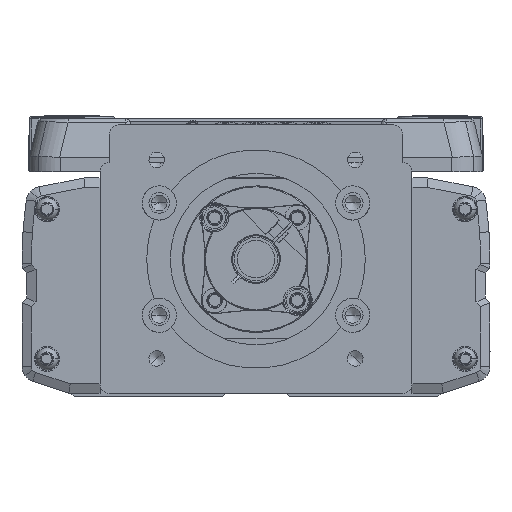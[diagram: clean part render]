
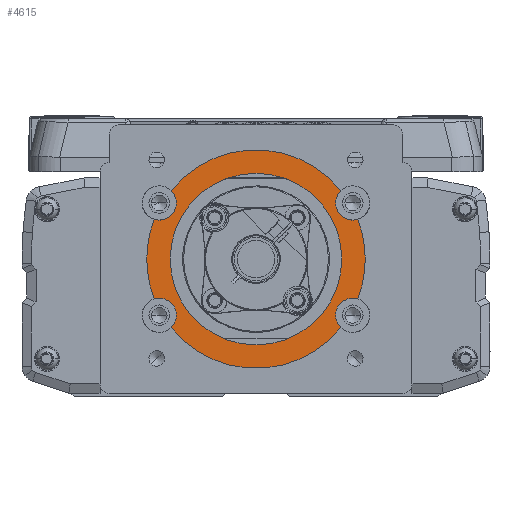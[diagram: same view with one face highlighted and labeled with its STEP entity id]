
A CAD part, left-side view. The second image highlights one B-rep face of the part: STEP entity #4615.
In plain terms, the highlighted planar face has unit normal (-1, 0, 0).
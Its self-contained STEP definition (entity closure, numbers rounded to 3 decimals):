
#4615=ADVANCED_FACE('',(#11685,#11686),#11687,.F.);
#11685=FACE_OUTER_BOUND('',#22243,.T.);
#11686=FACE_BOUND('',#22244,.T.);
#11687=PLANE('',#22245);
#22243=EDGE_LOOP('',(#36048,#36049,#36050,#36051,#36052,#36053,#36054,#36055,#36056,#36057,#36058,#36059,#36060,#36061));
#22244=EDGE_LOOP('',(#36062,#36063));
#22245=AXIS2_PLACEMENT_3D('',#36064,#36065,#36066);
#36048=ORIENTED_EDGE('',*,*,#63619,.F.);
#36049=ORIENTED_EDGE('',*,*,#63620,.T.);
#36050=ORIENTED_EDGE('',*,*,#63621,.T.);
#36051=ORIENTED_EDGE('',*,*,#63622,.F.);
#36052=ORIENTED_EDGE('',*,*,#63623,.F.);
#36053=ORIENTED_EDGE('',*,*,#63624,.T.);
#36054=ORIENTED_EDGE('',*,*,#63625,.F.);
#36055=ORIENTED_EDGE('',*,*,#63626,.F.);
#36056=ORIENTED_EDGE('',*,*,#63627,.T.);
#36057=ORIENTED_EDGE('',*,*,#63628,.T.);
#36058=ORIENTED_EDGE('',*,*,#63629,.F.);
#36059=ORIENTED_EDGE('',*,*,#63630,.F.);
#36060=ORIENTED_EDGE('',*,*,#62785,.T.);
#36061=ORIENTED_EDGE('',*,*,#63631,.F.);
#36062=ORIENTED_EDGE('',*,*,#63632,.F.);
#36063=ORIENTED_EDGE('',*,*,#63633,.F.);
#36064=CARTESIAN_POINT('',(-69.,0.,0.));
#36065=DIRECTION('',(1.0,0.,0.));
#36066=DIRECTION('',(0.,1.0,0.));
#62785=EDGE_CURVE('',#75015,#75012,#75016,.T.);
#63619=EDGE_CURVE('',#76483,#76484,#76485,.T.);
#63620=EDGE_CURVE('',#76483,#76486,#76487,.T.);
#63621=EDGE_CURVE('',#76486,#76488,#76489,.T.);
#63622=EDGE_CURVE('',#76490,#76488,#76491,.T.);
#63623=EDGE_CURVE('',#76492,#76490,#76493,.T.);
#63624=EDGE_CURVE('',#76492,#76494,#76495,.T.);
#63625=EDGE_CURVE('',#76496,#76494,#76497,.T.);
#63626=EDGE_CURVE('',#76498,#76496,#76499,.T.);
#63627=EDGE_CURVE('',#76498,#76500,#76501,.T.);
#63628=EDGE_CURVE('',#76500,#76502,#76503,.T.);
#63629=EDGE_CURVE('',#76504,#76502,#76505,.T.);
#63630=EDGE_CURVE('',#75015,#76504,#76506,.T.);
#63631=EDGE_CURVE('',#76484,#75012,#76507,.T.);
#63632=EDGE_CURVE('',#76508,#76509,#76510,.T.);
#63633=EDGE_CURVE('',#76509,#76508,#76511,.T.);
#75012=VERTEX_POINT('',#92374);
#75015=VERTEX_POINT('',#92378);
#75016=CIRCLE('',#92379,35.0);
#76483=VERTEX_POINT('',#95445);
#76484=VERTEX_POINT('',#95446);
#76485=CIRCLE('',#95447,5.5);
#76486=VERTEX_POINT('',#95448);
#76487=CIRCLE('',#95449,35.0);
#76488=VERTEX_POINT('',#95450);
#76489=CIRCLE('',#95451,35.0);
#76490=VERTEX_POINT('',#95452);
#76491=CIRCLE('',#95453,5.5);
#76492=VERTEX_POINT('',#95454);
#76493=CIRCLE('',#95455,5.5);
#76494=VERTEX_POINT('',#95456);
#76495=CIRCLE('',#95457,35.0);
#76496=VERTEX_POINT('',#95458);
#76497=CIRCLE('',#95459,5.5);
#76498=VERTEX_POINT('',#95460);
#76499=CIRCLE('',#95461,5.5);
#76500=VERTEX_POINT('',#95462);
#76501=CIRCLE('',#95463,35.0);
#76502=VERTEX_POINT('',#95464);
#76503=CIRCLE('',#95465,35.0);
#76504=VERTEX_POINT('',#95466);
#76505=CIRCLE('',#95467,5.5);
#76506=CIRCLE('',#95468,5.5);
#76507=CIRCLE('',#95469,5.5);
#76508=VERTEX_POINT('',#95470);
#76509=VERTEX_POINT('',#95471);
#76510=CIRCLE('',#95472,27.5);
#76511=CIRCLE('',#95473,27.5);
#92374=CARTESIAN_POINT('',(-69.,27.223,21.998));
#92378=CARTESIAN_POINT('',(-69.,-27.223,21.998));
#92379=AXIS2_PLACEMENT_3D('',#115428,#115429,#115430);
#95445=CARTESIAN_POINT('',(-69.,32.6,12.738));
#95446=CARTESIAN_POINT('',(-69.,25.5,18.));
#95447=AXIS2_PLACEMENT_3D('',#116631,#116632,#116633);
#95448=CARTESIAN_POINT('',(-69.,35.,0.));
#95449=AXIS2_PLACEMENT_3D('',#116634,#116635,#116636);
#95450=CARTESIAN_POINT('',(-69.,32.6,-12.738));
#95451=AXIS2_PLACEMENT_3D('',#116637,#116638,#116639);
#95452=CARTESIAN_POINT('',(-69.,25.5,-18.));
#95453=AXIS2_PLACEMENT_3D('',#116640,#116641,#116642);
#95454=CARTESIAN_POINT('',(-69.,27.223,-21.998));
#95455=AXIS2_PLACEMENT_3D('',#116643,#116644,#116645);
#95456=CARTESIAN_POINT('',(-69.,-27.223,-21.998));
#95457=AXIS2_PLACEMENT_3D('',#116646,#116647,#116648);
#95458=CARTESIAN_POINT('',(-69.,-25.5,-18.));
#95459=AXIS2_PLACEMENT_3D('',#116649,#116650,#116651);
#95460=CARTESIAN_POINT('',(-69.,-32.6,-12.738));
#95461=AXIS2_PLACEMENT_3D('',#116652,#116653,#116654);
#95462=CARTESIAN_POINT('',(-69.,-35.,0.));
#95463=AXIS2_PLACEMENT_3D('',#116655,#116656,#116657);
#95464=CARTESIAN_POINT('',(-69.,-32.6,12.738));
#95465=AXIS2_PLACEMENT_3D('',#116658,#116659,#116660);
#95466=CARTESIAN_POINT('',(-69.,-25.5,18.));
#95467=AXIS2_PLACEMENT_3D('',#116661,#116662,#116663);
#95468=AXIS2_PLACEMENT_3D('',#116664,#116665,#116666);
#95469=AXIS2_PLACEMENT_3D('',#116667,#116668,#116669);
#95470=CARTESIAN_POINT('',(-69.,-27.5,0.));
#95471=CARTESIAN_POINT('',(-69.,27.5,0.));
#95472=AXIS2_PLACEMENT_3D('',#116670,#116671,#116672);
#95473=AXIS2_PLACEMENT_3D('',#116673,#116674,#116675);
#115428=CARTESIAN_POINT('',(-69.,0.,0.));
#115429=DIRECTION('',(-1.0,0.,0.));
#115430=DIRECTION('',(0.,1.0,0.));
#116631=CARTESIAN_POINT('',(-69.,31.,18.));
#116632=DIRECTION('',(-1.0,0.,0.));
#116633=DIRECTION('',(0.,1.0,0.));
#116634=CARTESIAN_POINT('',(-69.,0.,0.));
#116635=DIRECTION('',(-1.0,0.,0.));
#116636=DIRECTION('',(0.,1.0,0.));
#116637=CARTESIAN_POINT('',(-69.,0.,0.));
#116638=DIRECTION('',(-1.0,0.,0.));
#116639=DIRECTION('',(0.,1.0,0.));
#116640=CARTESIAN_POINT('',(-69.,31.,-18.));
#116641=DIRECTION('',(-1.0,0.,0.));
#116642=DIRECTION('',(0.,1.0,0.));
#116643=CARTESIAN_POINT('',(-69.,31.,-18.));
#116644=DIRECTION('',(-1.0,0.,0.));
#116645=DIRECTION('',(0.,1.0,0.));
#116646=CARTESIAN_POINT('',(-69.,0.,0.));
#116647=DIRECTION('',(-1.0,0.,0.));
#116648=DIRECTION('',(0.,1.0,0.));
#116649=CARTESIAN_POINT('',(-69.,-31.,-18.));
#116650=DIRECTION('',(-1.0,0.,0.));
#116651=DIRECTION('',(0.,-1.0,0.));
#116652=CARTESIAN_POINT('',(-69.,-31.,-18.));
#116653=DIRECTION('',(-1.0,0.,0.));
#116654=DIRECTION('',(0.,-1.0,0.));
#116655=CARTESIAN_POINT('',(-69.,0.,0.));
#116656=DIRECTION('',(-1.0,0.,0.));
#116657=DIRECTION('',(0.,1.0,0.));
#116658=CARTESIAN_POINT('',(-69.,0.,0.));
#116659=DIRECTION('',(-1.0,0.,0.));
#116660=DIRECTION('',(0.,1.0,0.));
#116661=CARTESIAN_POINT('',(-69.,-31.,18.));
#116662=DIRECTION('',(-1.0,0.,0.));
#116663=DIRECTION('',(0.,-1.0,0.));
#116664=CARTESIAN_POINT('',(-69.,-31.,18.));
#116665=DIRECTION('',(-1.0,0.,0.));
#116666=DIRECTION('',(0.,-1.0,0.));
#116667=CARTESIAN_POINT('',(-69.,31.,18.));
#116668=DIRECTION('',(-1.0,0.,0.));
#116669=DIRECTION('',(0.,1.0,0.));
#116670=CARTESIAN_POINT('',(-69.,0.,0.));
#116671=DIRECTION('',(-1.0,0.,0.));
#116672=DIRECTION('',(0.,1.0,0.));
#116673=CARTESIAN_POINT('',(-69.,0.,0.));
#116674=DIRECTION('',(-1.0,0.,0.));
#116675=DIRECTION('',(0.,1.0,0.));
